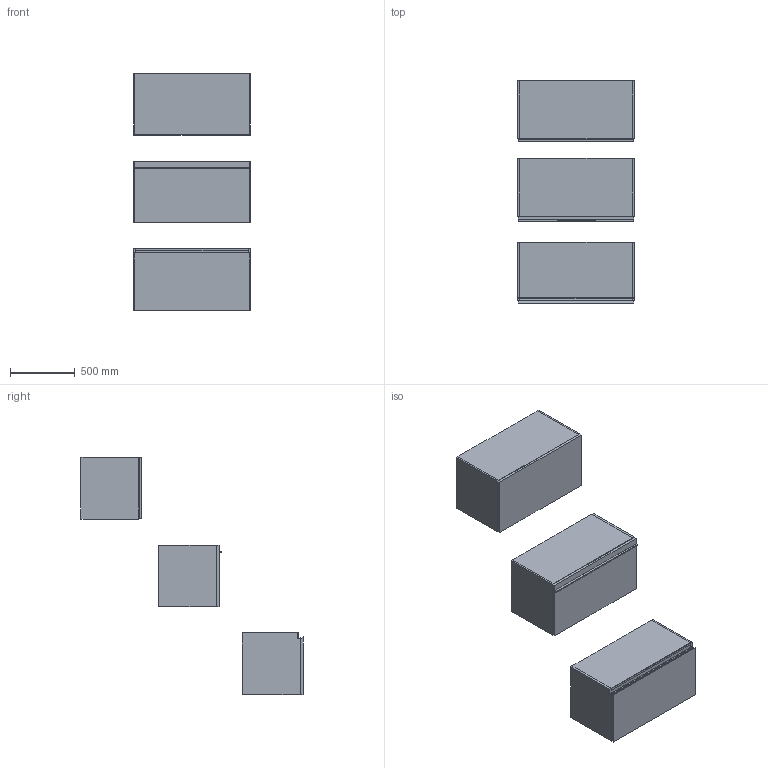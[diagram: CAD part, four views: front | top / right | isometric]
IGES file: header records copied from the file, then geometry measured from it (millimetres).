
Start section: Data from Parasolid IGES Translator 19.0.9, Copyright(c) 2006 Siemens PL M Software. All Rights Reserved.
Global section: file name: noorth-SI-H 48 D 47 W 90_8485.igs; native system: By Siemens PLM Incorporated; preprocessor: XPlus GENERIC/IGES 19.0.9; author: Noname; organization: Noname; date: 20200601.105712; units: metre
Bounding box: 900 x 1719.1 x 1840.01 mm (x, y, z)
Volume: 85262288.6 mm3; surface area: 12832822.4 mm2
Topology: 20 solids, 20 shells, 178 faces, 382 edges, 234 vertices
Faces by surface type: plane 134, extrusion 16, bspline 16, cylinder 12
